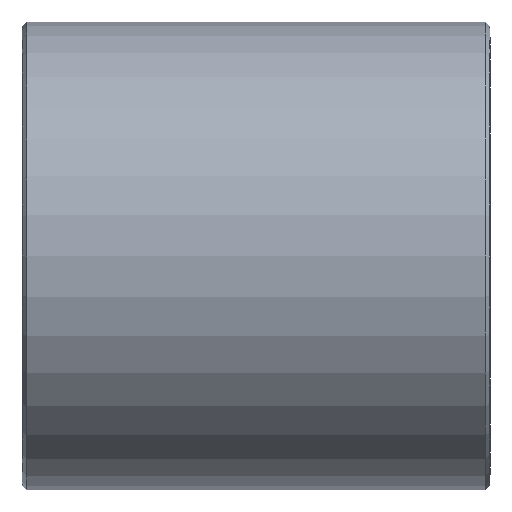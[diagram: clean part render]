
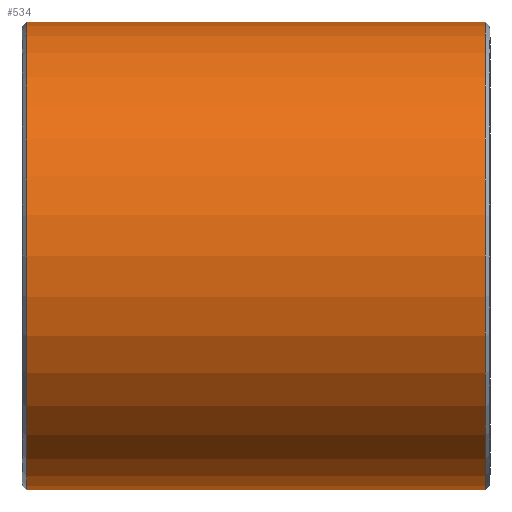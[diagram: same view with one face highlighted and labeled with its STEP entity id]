
A CAD part, left-side view. The second image highlights one B-rep face of the part: STEP entity #534.
In plain terms, the highlighted cylindrical face has radius 25 mm (diameter 50 mm), a partial arc.
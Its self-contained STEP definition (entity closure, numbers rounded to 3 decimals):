
#36 = EDGE_CURVE ( 'NONE', #1167, #713, #322, .T. ) ;
#53 = CARTESIAN_POINT ( 'NONE',  ( 0., 1., 25. ) ) ;
#72 = LINE ( 'NONE', #412, #104 ) ;
#93 = ORIENTED_EDGE ( 'NONE', *, *, #587, .T. ) ;
#104 = VECTOR ( 'NONE', #804, 1000. ) ;
#162 = FACE_OUTER_BOUND ( 'NONE', #520, .T. ) ;
#275 = AXIS2_PLACEMENT_3D ( 'NONE', #577, #972, #370 ) ;
#286 = CARTESIAN_POINT ( 'NONE',  ( 0., -48., 0. ) ) ;
#322 = LINE ( 'NONE', #1100, #824 ) ;
#370 = DIRECTION ( 'NONE',  ( 0., 0., 1. ) ) ;
#389 = DIRECTION ( 'NONE',  ( 0., 0., -1. ) ) ;
#403 = DIRECTION ( 'NONE',  ( 0., 1., 0. ) ) ;
#412 = CARTESIAN_POINT ( 'NONE',  ( 0., 65.513, 25. ) ) ;
#451 = DIRECTION ( 'NONE',  ( 0., 1., 0. ) ) ;
#520 = EDGE_LOOP ( 'NONE', ( #624, #650, #725, #93 ) ) ;
#534 = ADVANCED_FACE ( 'NONE', ( #162 ), #1145, .T. ) ;
#577 = CARTESIAN_POINT ( 'NONE',  ( 0., 1., 0. ) ) ;
#587 = EDGE_CURVE ( 'NONE', #855, #713, #988, .T. ) ;
#601 = CIRCLE ( 'NONE', #834, 25. ) ;
#619 = EDGE_CURVE ( 'NONE', #1167, #1183, #601, .T. ) ;
#624 = ORIENTED_EDGE ( 'NONE', *, *, #36, .F. ) ;
#649 = AXIS2_PLACEMENT_3D ( 'NONE', #1061, #451, #1154 ) ;
#650 = ORIENTED_EDGE ( 'NONE', *, *, #619, .T. ) ;
#713 = VERTEX_POINT ( 'NONE', #808 ) ;
#725 = ORIENTED_EDGE ( 'NONE', *, *, #803, .T. ) ;
#803 = EDGE_CURVE ( 'NONE', #1183, #855, #72, .T. ) ;
#804 = DIRECTION ( 'NONE',  ( 0., 1., 0. ) ) ;
#808 = CARTESIAN_POINT ( 'NONE',  ( 0., 1., -25. ) ) ;
#824 = VECTOR ( 'NONE', #403, 1000. ) ;
#834 = AXIS2_PLACEMENT_3D ( 'NONE', #286, #1185, #389 ) ;
#855 = VERTEX_POINT ( 'NONE', #53 ) ;
#972 = DIRECTION ( 'NONE',  ( 0., -1., 0. ) ) ;
#988 = CIRCLE ( 'NONE', #275, 25. ) ;
#1054 = CARTESIAN_POINT ( 'NONE',  ( 0., -48., -25. ) ) ;
#1061 = CARTESIAN_POINT ( 'NONE',  ( 0., 65.513, 0. ) ) ;
#1100 = CARTESIAN_POINT ( 'NONE',  ( 0., 65.513, -25. ) ) ;
#1145 = CYLINDRICAL_SURFACE ( 'NONE', #649, 25. ) ;
#1154 = DIRECTION ( 'NONE',  ( 0., 0., 1. ) ) ;
#1156 = CARTESIAN_POINT ( 'NONE',  ( 0., -48., 25. ) ) ;
#1167 = VERTEX_POINT ( 'NONE', #1054 ) ;
#1183 = VERTEX_POINT ( 'NONE', #1156 ) ;
#1185 = DIRECTION ( 'NONE',  ( 0., 1., 0. ) ) ;
